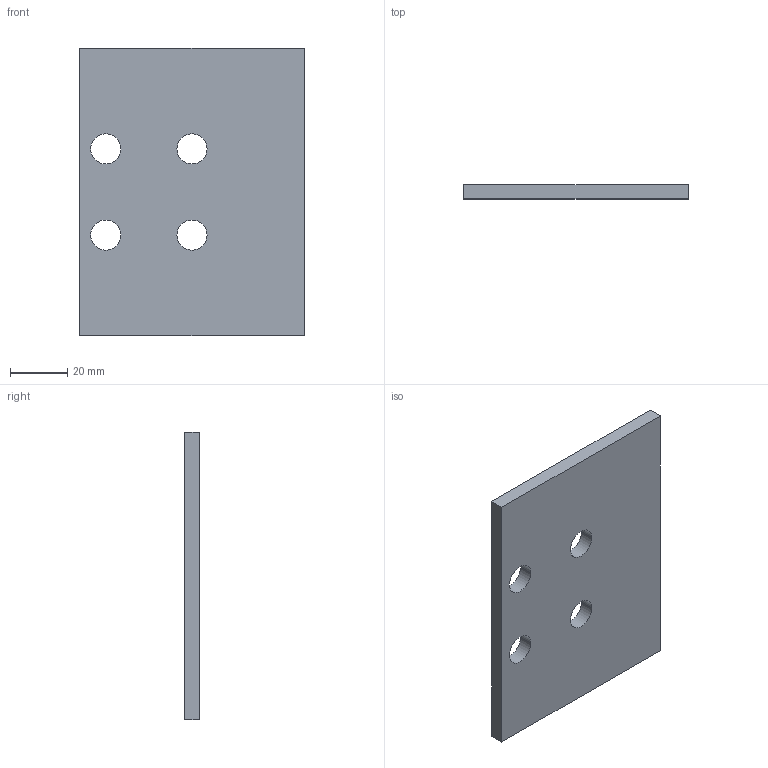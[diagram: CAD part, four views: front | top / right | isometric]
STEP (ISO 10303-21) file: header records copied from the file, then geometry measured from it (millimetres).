
FILE_DESCRIPTION( ( '' ), '1' );
FILE_NAME( 'E:/04 嬴檜蠱滌/0404 ZIMMER/040414 ZIMMER CAD download/Adapt plate/PLK for LKP, LKPS/PLK55-5.stp', '2020-04-16T10:20:04', ( '' ), ( '' ), ' ', ' ', ' ' );
FILE_SCHEMA( ( 'automotive_design' ) );
Length unit declared in the file: millimetre
Products named in the file (1): 1
Bounding box: 78 x 5 x 100 mm (x, y, z)
Volume: 37268.2 mm3; surface area: 17347 mm2
Topology: 1 solids, 1 shells, 14 faces, 36 edges, 24 vertices
Faces by surface type: cylinder 8, plane 6
Entity records: 888 total; most frequent: DIRECTION 82, STYLED_ITEM 75, PRESENTATION_STYLE_ASSIGNMENT 75, CARTESIAN_POINT 75, COLOUR_RGB 75, ORIENTED_EDGE 72, EDGE_CURVE 36, CURVE_STYLE 36
